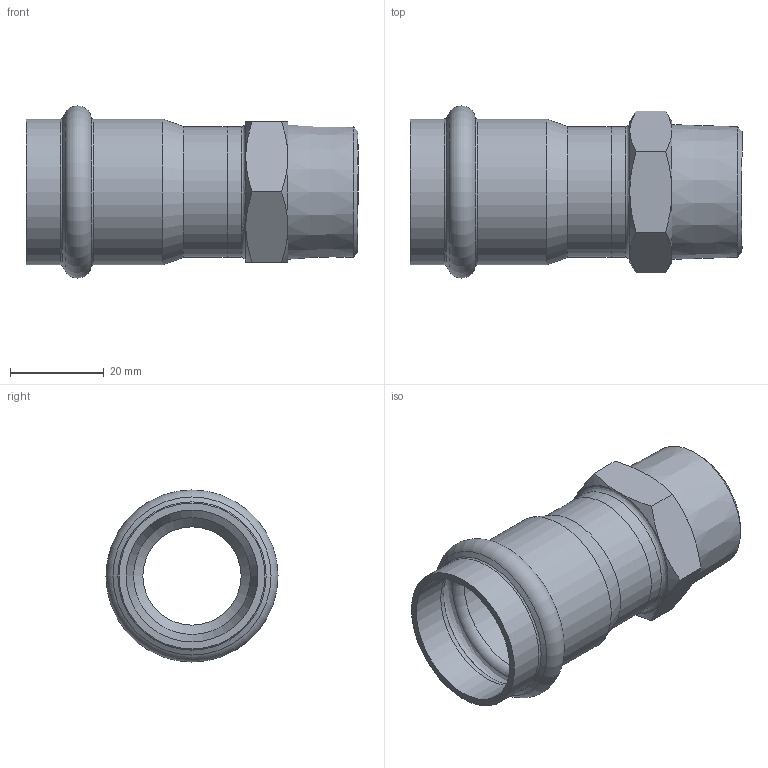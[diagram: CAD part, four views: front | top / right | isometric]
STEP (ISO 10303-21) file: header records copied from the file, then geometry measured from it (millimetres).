
FILE_DESCRIPTION((''),'2;1');
FILE_NAME('G:\Technics\CAD\Bauteile\028\69243G2834(1).stp','2008-02-27T11:56:37',('herberg'),(''),'Autodesk Inventor 2008','Autodesk Inventor 2008','');
FILE_SCHEMA(('AUTOMOTIVE_DESIGN { 1 0 10303 214 1 1 1 1 }'));
Length unit declared in the file: millimetre
Products named in the file (3): 69243G2834(1); 6924328HM(1); AG2834(1)
Assembly tree (2 placements, depth 2):
  69243G2834(1)
    6924328HM(1)
    AG2834(1)
Bounding box: 71 x 36.8 x 36.8 mm (x, y, z)
Volume: 14521.3 mm3; surface area: 13909.5 mm2
Topology: 2 solids, 2 shells, 46 faces, 95 edges, 54 vertices
Faces by surface type: cone 18, plane 11, bspline 7, cylinder 7, torus 3
Full cylindrical faces by diameter (mm): 25 x1, 28 x2, 28.2 x2, 31.2 x2
Entity records: 1353 total; most frequent: CARTESIAN_POINT 482, DIRECTION 172, ORIENTED_EDGE 138, AXIS2_PLACEMENT_3D 83, EDGE_LOOP 74, EDGE_CURVE 69, VERTEX_POINT 51, FACE_OUTER_BOUND 46
